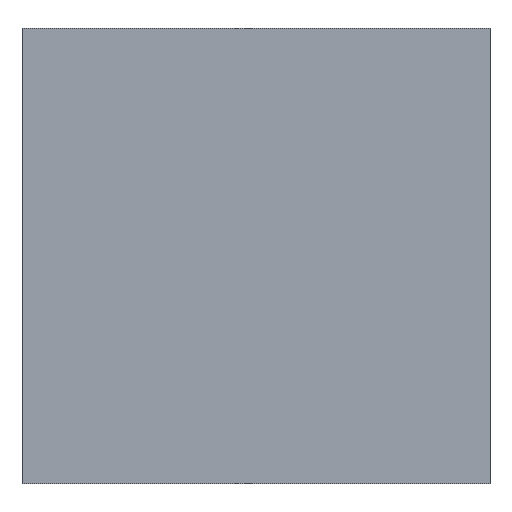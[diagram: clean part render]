
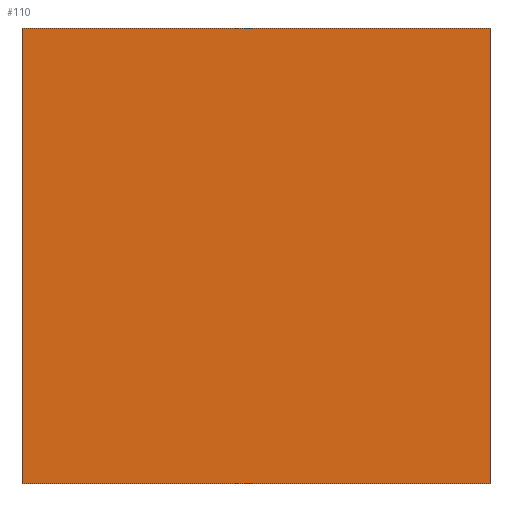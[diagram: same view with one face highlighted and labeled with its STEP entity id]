
A CAD part, top view. The second image highlights one B-rep face of the part: STEP entity #110.
In plain terms, the highlighted planar face has unit normal (0, 0, 1).
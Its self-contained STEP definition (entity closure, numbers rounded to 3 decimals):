
#24=FACE_OUTER_BOUND('',#30,.T.);
#30=EDGE_LOOP('',(#95,#96,#97,#98));
#36=LINE('',#178,#48);
#38=LINE('',#182,#50);
#40=LINE('',#186,#52);
#42=LINE('',#189,#54);
#48=VECTOR('',#146,10.);
#50=VECTOR('',#150,10.);
#52=VECTOR('',#154,10.);
#54=VECTOR('',#158,10.);
#59=VERTEX_POINT('',#175);
#60=VERTEX_POINT('',#177);
#61=VERTEX_POINT('',#181);
#62=VERTEX_POINT('',#185);
#68=EDGE_CURVE('',#60,#59,#36,.T.);
#70=EDGE_CURVE('',#61,#60,#38,.T.);
#72=EDGE_CURVE('',#62,#61,#40,.T.);
#74=EDGE_CURVE('',#59,#62,#42,.T.);
#95=ORIENTED_EDGE('',*,*,#74,.T.);
#96=ORIENTED_EDGE('',*,*,#72,.T.);
#97=ORIENTED_EDGE('',*,*,#70,.T.);
#98=ORIENTED_EDGE('',*,*,#68,.T.);
#104=PLANE('',#131);
#110=ADVANCED_FACE('',(#24),#104,.T.);
#131=AXIS2_PLACEMENT_3D('',#190,#159,#160);
#146=DIRECTION('',(-1.,0.,0.));
#150=DIRECTION('',(0.,1.,0.));
#154=DIRECTION('',(1.,0.,0.));
#158=DIRECTION('',(0.,-1.,0.));
#159=DIRECTION('center_axis',(0.,0.,1.));
#160=DIRECTION('ref_axis',(1.,0.,0.));
#175=CARTESIAN_POINT('',(127.785,487.36,-246.));
#177=CARTESIAN_POINT('',(317.785,487.36,-246.));
#178=CARTESIAN_POINT('',(317.785,487.36,-246.));
#181=CARTESIAN_POINT('',(317.785,302.36,-246.));
#182=CARTESIAN_POINT('',(317.785,302.36,-246.));
#185=CARTESIAN_POINT('',(127.785,302.36,-246.));
#186=CARTESIAN_POINT('',(127.785,302.36,-246.));
#189=CARTESIAN_POINT('',(127.785,487.36,-246.));
#190=CARTESIAN_POINT('Origin',(222.785,394.86,-246.));
